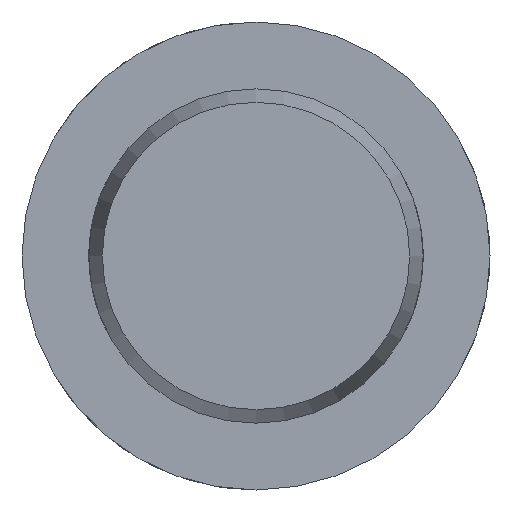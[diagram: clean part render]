
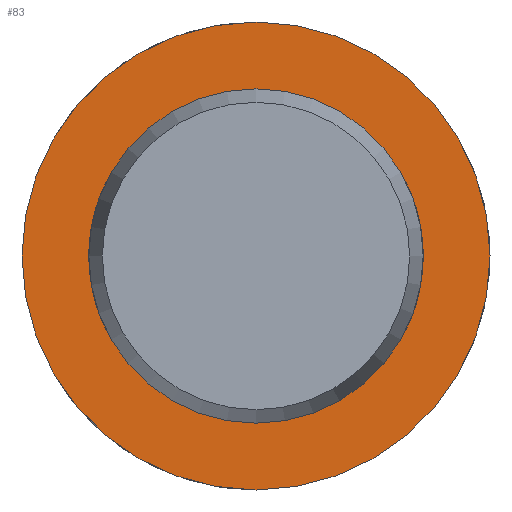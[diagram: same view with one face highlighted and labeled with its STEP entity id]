
A CAD part, left-side view. The second image highlights one B-rep face of the part: STEP entity #83.
In plain terms, the highlighted planar face has unit normal (-1, 0, 0).
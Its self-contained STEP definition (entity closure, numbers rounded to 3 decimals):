
#83 = ADVANCED_FACE( '', ( #128, #129 ), #130, .F. );
#128 = FACE_OUTER_BOUND( '', #204, .T. );
#129 = FACE_BOUND( '', #205, .T. );
#130 = PLANE( '', #206 );
#204 = EDGE_LOOP( '', ( #318 ) );
#205 = EDGE_LOOP( '', ( #319 ) );
#206 = AXIS2_PLACEMENT_3D( '', #320, #321, #322 );
#318 = ORIENTED_EDGE( '', *, *, #481, .F. );
#319 = ORIENTED_EDGE( '', *, *, #471, .T. );
#320 = CARTESIAN_POINT( '', ( 69.6, 5., 0. ) );
#321 = DIRECTION( '', ( 1., 0., 0. ) );
#322 = DIRECTION( '', ( 0., 0., -1. ) );
#471 = EDGE_CURVE( '', #541, #541, #542, .T. );
#481 = EDGE_CURVE( '', #559, #559, #560, .T. );
#541 = VERTEX_POINT( '', #726 );
#542 = CIRCLE( '', #727, 5. );
#559 = VERTEX_POINT( '', #881 );
#560 = CIRCLE( '', #882, 7. );
#726 = CARTESIAN_POINT( '', ( 69.6, 0., -5. ) );
#727 = AXIS2_PLACEMENT_3D( '', #943, #944, #945 );
#881 = CARTESIAN_POINT( '', ( 69.6, 0., -7. ) );
#882 = AXIS2_PLACEMENT_3D( '', #964, #965, #966 );
#943 = CARTESIAN_POINT( '', ( 69.6, 0., 0. ) );
#944 = DIRECTION( '', ( 1., 0., 0. ) );
#945 = DIRECTION( '', ( 0., 0., -1. ) );
#964 = CARTESIAN_POINT( '', ( 69.6, 0., 0. ) );
#965 = DIRECTION( '', ( 1., 0., 0. ) );
#966 = DIRECTION( '', ( 0., 0., -1. ) );
